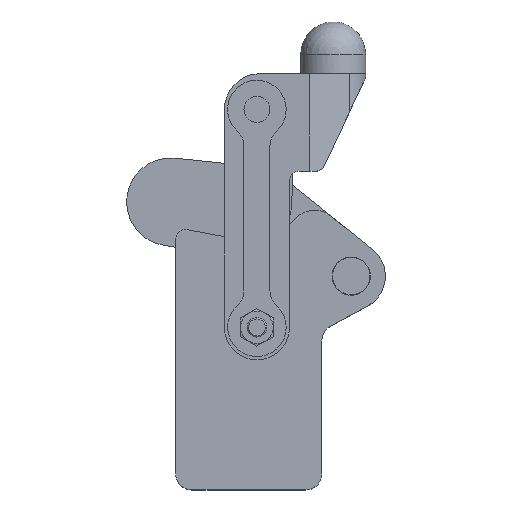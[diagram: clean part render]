
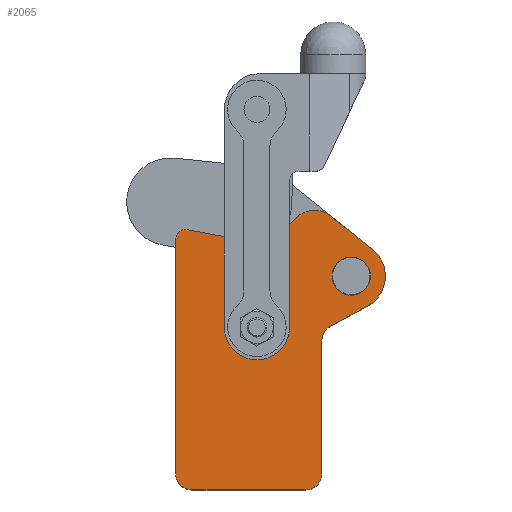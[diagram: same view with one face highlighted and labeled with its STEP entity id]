
A CAD part, top view. The second image highlights one B-rep face of the part: STEP entity #2065.
In plain terms, the highlighted planar face has unit normal (0, 0, 1).
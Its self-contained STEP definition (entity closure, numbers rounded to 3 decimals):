
#1033 = EDGE_CURVE( '', #2565, #2049, #3022, .T. );
#1245 = EDGE_CURVE( '', #1731, #2455, #3257, .T. );
#1331 = VERTEX_POINT( '', #3357 );
#1381 = VERTEX_POINT( '', #3411 );
#1461 = EDGE_CURVE( '', #1381, #1781, #3496, .T. );
#1487 = EDGE_CURVE( '', #2387, #2567, #3525, .T. );
#1731 = VERTEX_POINT( '', #3795 );
#1755 = EDGE_CURVE( '', #2711, #1731, #3822, .T. );
#1781 = VERTEX_POINT( '', #3848 );
#1817 = EDGE_CURVE( '', #2865, #1381, #3888, .T. );
#1829 = EDGE_CURVE( '', #2139, #2833, #3903, .T. );
#1941 = EDGE_CURVE( '', #2833, #2459, #4028, .T. );
#1945 = EDGE_CURVE( '', #1781, #2565, #4033, .T. );
#2007 = EDGE_CURVE( '', #2459, #2025, #4102, .T. );
#2025 = VERTEX_POINT( '', #4123 );
#2031 = EDGE_CURVE( '', #2025, #1331, #4130, .T. );
#2049 = VERTEX_POINT( '', #4150 );
#2065 = ADVANCED_FACE( '', ( #4166, #4167 ), #4168, .T. );
#2069 = EDGE_CURVE( '', #2567, #2387, #4172, .T. );
#2139 = VERTEX_POINT( '', #4251 );
#2263 = EDGE_CURVE( '', #2813, #2139, #4390, .T. );
#2387 = VERTEX_POINT( '', #4535 );
#2455 = VERTEX_POINT( '', #4613 );
#2459 = VERTEX_POINT( '', #4617 );
#2565 = VERTEX_POINT( '', #4730 );
#2567 = VERTEX_POINT( '', #4732 );
#2575 = EDGE_CURVE( '', #1331, #2865, #4741, .T. );
#2711 = VERTEX_POINT( '', #4892 );
#2747 = EDGE_CURVE( '', #2049, #2711, #4931, .T. );
#2813 = VERTEX_POINT( '', #5001 );
#2833 = VERTEX_POINT( '', #5022 );
#2865 = VERTEX_POINT( '', #5058 );
#2879 = EDGE_CURVE( '', #2455, #2813, #5074, .T. );
#3022 = LINE( '', #5240, #5241 );
#3257 = CIRCLE( '', #5568, 5. );
#3357 = CARTESIAN_POINT( '', ( 33.687, 80.02, 10. ) );
#3411 = CARTESIAN_POINT( '', ( 47.695, 84.249, 10. ) );
#3496 = LINE( '', #5930, #5931 );
#3525 = CIRCLE( '', #5969, 5.875 );
#3795 = CARTESIAN_POINT( '', ( 45., 5., 10. ) );
#3822 = LINE( '', #6392, #6393 );
#3848 = CARTESIAN_POINT( '', ( 60.56, 73.951, 10. ) );
#3888 = CIRCLE( '', #6489, 8. );
#3903 = LINE( '', #6515, #6516 );
#4028 = CIRCLE( '', #6697, 3. );
#4033 = CIRCLE( '', #6703, 10.5 );
#4102 = LINE( '', #6799, #6800 );
#4123 = CARTESIAN_POINT( '', ( 22.81, 76.404, 10. ) );
#4130 = CIRCLE( '', #6844, 11.8 );
#4150 = CARTESIAN_POINT( '', ( 47.611, 50.339, 10. ) );
#4166 = FACE_BOUND( '', #6893, .T. );
#4167 = FACE_OUTER_BOUND( '', #6894, .T. );
#4168 = PLANE( '', #6895 );
#4172 = CIRCLE( '', #6900, 5.875 );
#4251 = CARTESIAN_POINT( '', ( 0., 5., 10. ) );
#4390 = CIRCLE( '', #7204, 5. );
#4535 = CARTESIAN_POINT( '', ( 59.873, 65.754, 10. ) );
#4613 = CARTESIAN_POINT( '', ( 40., 0., 10. ) );
#4617 = CARTESIAN_POINT( '', ( 3.553, 80.032, 10. ) );
#4730 = CARTESIAN_POINT( '', ( 59.008, 56.526, 10. ) );
#4732 = CARTESIAN_POINT( '', ( 48.123, 65.754, 10. ) );
#4741 = LINE( '', #7684, #7685 );
#4892 = CARTESIAN_POINT( '', ( 45., 45.772, 10. ) );
#4931 = CIRCLE( '', #7945, 5. );
#5001 = CARTESIAN_POINT( '', ( 5., 0., 10. ) );
#5022 = CARTESIAN_POINT( '', ( 0., 76.974, 10. ) );
#5058 = CARTESIAN_POINT( '', ( 36.803, 83.413, 10. ) );
#5074 = LINE( '', #8156, #8157 );
#5240 = CARTESIAN_POINT( '', ( 47.611, 50.339, 10. ) );
#5241 = VECTOR( '', #8349, 1. );
#5568 = AXIS2_PLACEMENT_3D( '', #8611, #8612, #8613 );
#5930 = CARTESIAN_POINT( '', ( 60.56, 73.951, 10. ) );
#5931 = VECTOR( '', #8884, 1. );
#5969 = AXIS2_PLACEMENT_3D( '', #8918, #8919, #8920 );
#6392 = CARTESIAN_POINT( '', ( 45., 5., 10. ) );
#6393 = VECTOR( '', #9285, 1. );
#6489 = AXIS2_PLACEMENT_3D( '', #9351, #9352, #9353 );
#6515 = CARTESIAN_POINT( '', ( 0., 76.974, 10. ) );
#6516 = VECTOR( '', #9378, 1. );
#6697 = AXIS2_PLACEMENT_3D( '', #9523, #9524, #9525 );
#6703 = AXIS2_PLACEMENT_3D( '', #9533, #9534, #9535 );
#6799 = CARTESIAN_POINT( '', ( 22.81, 76.404, 10. ) );
#6800 = VECTOR( '', #9619, 1. );
#6844 = AXIS2_PLACEMENT_3D( '', #9658, #9659, #9660 );
#6893 = EDGE_LOOP( '', ( #9692, #9693 ) );
#6894 = EDGE_LOOP( '', ( #9694, #9695, #9696, #9697, #9698, #9699, #9700, #9701, #9702, #9703, #9704, #9705, #9706, #9707 ) );
#6895 = AXIS2_PLACEMENT_3D( '', #9708, #9709, #9710 );
#6900 = AXIS2_PLACEMENT_3D( '', #9711, #9712, #9713 );
#7204 = AXIS2_PLACEMENT_3D( '', #9965, #9966, #9967 );
#7684 = CARTESIAN_POINT( '', ( 36.803, 83.413, 10. ) );
#7685 = VECTOR( '', #10402, 1. );
#7945 = AXIS2_PLACEMENT_3D( '', #10621, #10622, #10623 );
#8156 = CARTESIAN_POINT( '', ( 5., 0., 10. ) );
#8157 = VECTOR( '', #10768, 1. );
#8349 = DIRECTION( '', ( -0.879, -0.477, 0. ) );
#8611 = CARTESIAN_POINT( '', ( 40., 5., 10. ) );
#8612 = DIRECTION( '', ( 0., 0., -1. ) );
#8613 = DIRECTION( '', ( 0., -1., 0. ) );
#8884 = DIRECTION( '', ( 0.781, -0.625, 0. ) );
#8918 = CARTESIAN_POINT( '', ( 53.998, 65.754, 10. ) );
#8919 = DIRECTION( '', ( 0., 0., -1. ) );
#8920 = DIRECTION( '', ( 1., 0., 0. ) );
#9285 = DIRECTION( '', ( 0., -1., 0. ) );
#9351 = CARTESIAN_POINT( '', ( 42.696, 78.003, 10. ) );
#9352 = DIRECTION( '', ( 0., 0., -1. ) );
#9353 = DIRECTION( '', ( 0.625, 0.781, 0. ) );
#9378 = DIRECTION( '', ( 0., 1., 0. ) );
#9523 = CARTESIAN_POINT( '', ( 2.998, 77.084, 10. ) );
#9524 = DIRECTION( '', ( 0., 0., -1. ) );
#9525 = DIRECTION( '', ( 0.185, 0.983, 0. ) );
#9533 = CARTESIAN_POINT( '', ( 53.998, 65.754, 10. ) );
#9534 = DIRECTION( '', ( 0., 0., -1. ) );
#9535 = DIRECTION( '', ( 0.477, -0.879, 0. ) );
#9619 = DIRECTION( '', ( 0.983, -0.185, 0. ) );
#9658 = CARTESIAN_POINT( '', ( 24.995, 88., 10. ) );
#9659 = DIRECTION( '', ( 0., 0., 1. ) );
#9660 = DIRECTION( '', ( 0.737, -0.676, 0. ) );
#9692 = ORIENTED_EDGE( '', *, *, #1487, .T. );
#9693 = ORIENTED_EDGE( '', *, *, #2069, .T. );
#9694 = ORIENTED_EDGE( '', *, *, #2007, .F. );
#9695 = ORIENTED_EDGE( '', *, *, #1941, .F. );
#9696 = ORIENTED_EDGE( '', *, *, #1829, .F. );
#9697 = ORIENTED_EDGE( '', *, *, #2263, .F. );
#9698 = ORIENTED_EDGE( '', *, *, #2879, .F. );
#9699 = ORIENTED_EDGE( '', *, *, #1245, .F. );
#9700 = ORIENTED_EDGE( '', *, *, #1755, .F. );
#9701 = ORIENTED_EDGE( '', *, *, #2747, .F. );
#9702 = ORIENTED_EDGE( '', *, *, #1033, .F. );
#9703 = ORIENTED_EDGE( '', *, *, #1945, .F. );
#9704 = ORIENTED_EDGE( '', *, *, #1461, .F. );
#9705 = ORIENTED_EDGE( '', *, *, #1817, .F. );
#9706 = ORIENTED_EDGE( '', *, *, #2575, .F. );
#9707 = ORIENTED_EDGE( '', *, *, #2031, .F. );
#9708 = CARTESIAN_POINT( '', ( 0., 0., 10. ) );
#9709 = DIRECTION( '', ( 0., 0., 1. ) );
#9710 = DIRECTION( '', ( 1., 0., 0. ) );
#9711 = CARTESIAN_POINT( '', ( 53.998, 65.754, 10. ) );
#9712 = DIRECTION( '', ( 0., 0., -1. ) );
#9713 = DIRECTION( '', ( 1., 0., 0. ) );
#9965 = CARTESIAN_POINT( '', ( 5., 5., 10. ) );
#9966 = DIRECTION( '', ( 0., 0., -1. ) );
#9967 = DIRECTION( '', ( -1., 0., 0. ) );
#10402 = DIRECTION( '', ( 0.676, 0.737, 0. ) );
#10621 = CARTESIAN_POINT( '', ( 49.997, 45.945, 10. ) );
#10622 = DIRECTION( '', ( 0., 0., 1. ) );
#10623 = DIRECTION( '', ( -0.999, -0.035, 0. ) );
#10768 = DIRECTION( '', ( -1., 0., 0. ) );
